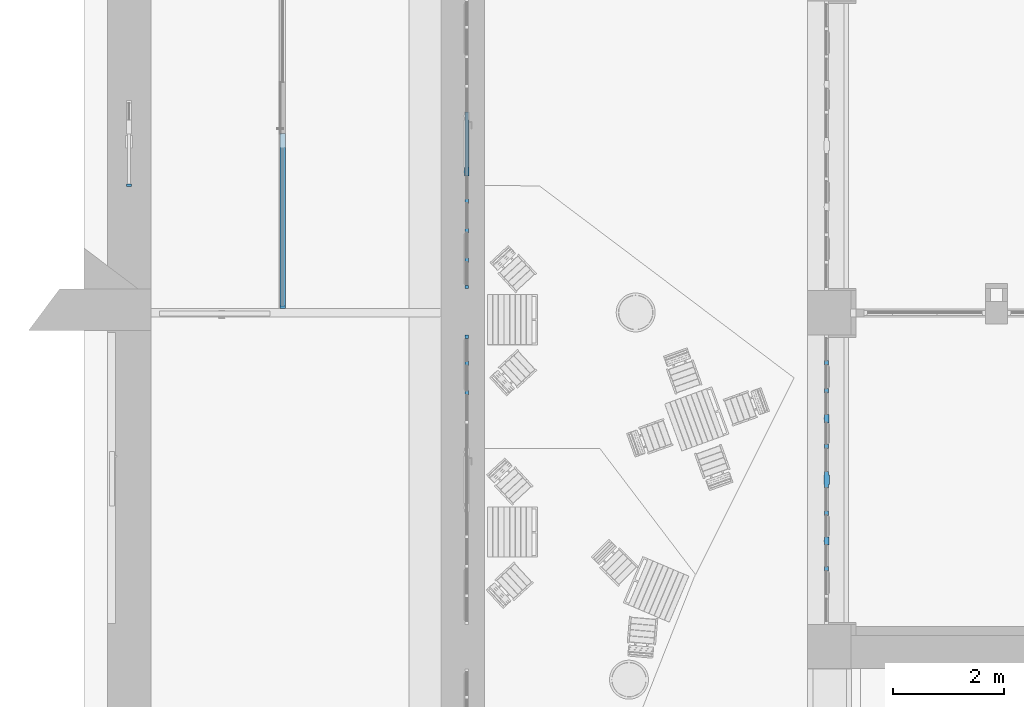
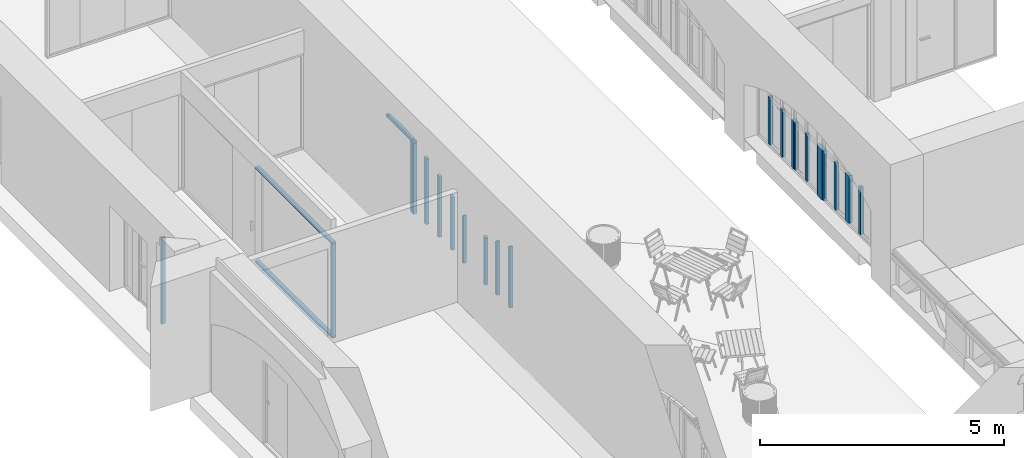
# One storey, part 4 of 88: 22 members, 5 elements without a shape of their own.
"""IFC2X3 building model written with IfcOpenShell, lengths in millimetres."""

from ifc_helpers import new_model, entity, si_unit, converted_unit, derived_unit, direction, frame, frame_2d, origin, origin_2d_with_axis, place, context, subcontext, project, spatial, polyline, circle_curve, parameter, trimmed, segment, composite_curve, rectangle, outline, extrude, source, transform, mapped, material, type_object, type_shapes, element, aggregate, save


model = new_model("IFC2X3")

# Units and contexts
model_context = context("Model", 3, precision=0.01, world=origin(), true_north=direction((6.123031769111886e-17, 1.0)))
body_context = subcontext(model_context, "Body", "Model", "MODEL_VIEW")
ifc_project = project(units=[si_unit("LENGTHUNIT", "METRE", prefix="MILLI"), si_unit("AREAUNIT", "SQUARE_METRE"), si_unit("VOLUMEUNIT", "CUBIC_METRE"), converted_unit("PLANEANGLEUNIT", "DEGREE", entity("IfcPlaneAngleMeasure", 0.017453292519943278), si_unit("PLANEANGLEUNIT", "RADIAN"), dimensions=[0, 0, 0, 0, 0, 0, 0]), si_unit("MASSUNIT", "GRAM", prefix="KILO"), derived_unit("MASSDENSITYUNIT", [(si_unit("MASSUNIT", "GRAM", prefix="KILO"), 1), (si_unit("LENGTHUNIT", "METRE"), -3)]), derived_unit("IONCONCENTRATIONUNIT", [(si_unit("MASSUNIT", "GRAM", prefix="KILO"), 1), (si_unit("LENGTHUNIT", "METRE"), -3)]), derived_unit("MOMENTOFINERTIAUNIT", [(si_unit("LENGTHUNIT", "METRE"), 4)]), si_unit("TIMEUNIT", "SECOND"), si_unit("FREQUENCYUNIT", "HERTZ"), si_unit("THERMODYNAMICTEMPERATUREUNIT", "DEGREE_CELSIUS"), derived_unit("THERMALTRANSMITTANCEUNIT", [(si_unit("MASSUNIT", "GRAM", prefix="KILO"), 1), (si_unit("THERMODYNAMICTEMPERATUREUNIT", "KELVIN"), -1), (si_unit("TIMEUNIT", "SECOND"), -3)]), derived_unit("THERMALCONDUCTANCEUNIT", [(si_unit("MASSUNIT", "GRAM", prefix="KILO"), 1), (si_unit("THERMODYNAMICTEMPERATUREUNIT", "KELVIN"), -1), (si_unit("TIMEUNIT", "SECOND"), -3), (si_unit("LENGTHUNIT", "METRE"), 1)]), derived_unit("VOLUMETRICFLOWRATEUNIT", [(si_unit("LENGTHUNIT", "METRE", prefix="DECI"), 3), (si_unit("TIMEUNIT", "SECOND"), -1)]), derived_unit("MASSFLOWRATEUNIT", [(si_unit("MASSUNIT", "GRAM", prefix="KILO"), 1), (si_unit("TIMEUNIT", "SECOND"), -1)]), derived_unit("ROTATIONALFREQUENCYUNIT", [(si_unit("TIMEUNIT", "SECOND"), -1)]), si_unit("ELECTRICCURRENTUNIT", "AMPERE"), si_unit("ELECTRICVOLTAGEUNIT", "VOLT"), si_unit("POWERUNIT", "WATT"), si_unit("FORCEUNIT", "NEWTON", prefix="KILO"), si_unit("ILLUMINANCEUNIT", "LUX"), si_unit("LUMINOUSFLUXUNIT", "LUMEN"), si_unit("LUMINOUSINTENSITYUNIT", "CANDELA"), si_unit("ENERGYUNIT", "JOULE"), derived_unit("USERDEFINED", [(si_unit("MASSUNIT", "GRAM", prefix="KILO"), -1), (si_unit("LENGTHUNIT", "METRE"), -2), (si_unit("TIMEUNIT", "SECOND"), 3), (si_unit("LUMINOUSFLUXUNIT", "LUMEN"), 1)]), derived_unit("USERDEFINED", [(si_unit("MASSUNIT", "GRAM", prefix="KILO"), 1), (si_unit("TIMEUNIT", "SECOND"), -3), (si_unit("LENGTHUNIT", "METRE"), 3), (si_unit("ELECTRICCURRENTUNIT", "AMPERE"), -2)]), derived_unit("SOUNDPOWERUNIT", [(si_unit("MASSUNIT", "GRAM", prefix="KILO"), 1), (si_unit("TIMEUNIT", "SECOND"), -3), (si_unit("LENGTHUNIT", "METRE"), 2)]), derived_unit("SOUNDPRESSUREUNIT", [(si_unit("MASSUNIT", "GRAM", prefix="KILO"), 1), (si_unit("LENGTHUNIT", "METRE"), -1), (si_unit("TIMEUNIT", "SECOND"), -2)]), derived_unit("LINEARVELOCITYUNIT", [(si_unit("LENGTHUNIT", "METRE"), 1), (si_unit("TIMEUNIT", "SECOND"), -1)]), si_unit("PRESSUREUNIT", "PASCAL"), derived_unit("USERDEFINED", [(si_unit("MASSUNIT", "GRAM", prefix="KILO"), 1), (si_unit("LENGTHUNIT", "METRE"), -2), (si_unit("TIMEUNIT", "SECOND"), -2)]), derived_unit("LINEARFORCEUNIT", [(si_unit("MASSUNIT", "GRAM", prefix="KILO"), 1), (si_unit("TIMEUNIT", "SECOND"), -2)]), derived_unit("PLANARFORCEUNIT", [(si_unit("MASSUNIT", "GRAM", prefix="KILO"), 1), (si_unit("LENGTHUNIT", "METRE"), -1), (si_unit("TIMEUNIT", "SECOND"), -2)]), derived_unit("SPECIFICHEATCAPACITYUNIT", [(si_unit("THERMODYNAMICTEMPERATUREUNIT", "KELVIN"), -1), (si_unit("LENGTHUNIT", "METRE"), 2), (si_unit("TIMEUNIT", "SECOND"), -2)]), derived_unit("HEATFLUXDENSITYUNIT", [(si_unit("MASSUNIT", "GRAM", prefix="KILO"), 1), (si_unit("TIMEUNIT", "SECOND"), -3)]), derived_unit("HEATINGVALUEUNIT", [(si_unit("LENGTHUNIT", "METRE"), 2), (si_unit("TIMEUNIT", "SECOND"), -2)]), derived_unit("VAPORPERMEABILITYUNIT", [(si_unit("LENGTHUNIT", "METRE"), -1), (si_unit("TIMEUNIT", "SECOND"), 1)]), derived_unit("DYNAMICVISCOSITYUNIT", [(si_unit("MASSUNIT", "GRAM", prefix="KILO"), 1), (si_unit("TIMEUNIT", "SECOND"), -1), (si_unit("LENGTHUNIT", "METRE"), -1)]), derived_unit("THERMALEXPANSIONCOEFFICIENTUNIT", [(si_unit("THERMODYNAMICTEMPERATUREUNIT", "KELVIN"), -1)]), derived_unit("MODULUSOFELASTICITYUNIT", [(si_unit("MASSUNIT", "GRAM", prefix="KILO"), 1), (si_unit("LENGTHUNIT", "METRE"), -1), (si_unit("TIMEUNIT", "SECOND"), -2)]), derived_unit("ISOTHERMALMOISTURECAPACITYUNIT", [(si_unit("MASSUNIT", "GRAM", prefix="KILO"), -1), (si_unit("LENGTHUNIT", "METRE"), 3)]), derived_unit("MOISTUREDIFFUSIVITYUNIT", [(si_unit("TIMEUNIT", "SECOND"), -1), (si_unit("LENGTHUNIT", "METRE"), 2)]), derived_unit("MASSPERLENGTHUNIT", [(si_unit("MASSUNIT", "GRAM", prefix="KILO"), 1), (si_unit("LENGTHUNIT", "METRE"), -1)]), derived_unit("THERMALRESISTANCEUNIT", [(si_unit("MASSUNIT", "GRAM", prefix="KILO"), -1), (si_unit("TIMEUNIT", "SECOND"), 3), (si_unit("THERMODYNAMICTEMPERATUREUNIT", "KELVIN"), 1)]), derived_unit("ACCELERATIONUNIT", [(si_unit("LENGTHUNIT", "METRE"), 1), (si_unit("TIMEUNIT", "SECOND"), -2)]), derived_unit("ANGULARVELOCITYUNIT", [(si_unit("TIMEUNIT", "SECOND"), -1), (si_unit("PLANEANGLEUNIT", "RADIAN"), 1)]), derived_unit("LINEARSTIFFNESSUNIT", [(si_unit("MASSUNIT", "GRAM", prefix="KILO"), 1), (si_unit("TIMEUNIT", "SECOND"), -2)]), derived_unit("WARPINGCONSTANTUNIT", [(si_unit("LENGTHUNIT", "METRE"), 6)]), derived_unit("LINEARMOMENTUNIT", [(si_unit("MASSUNIT", "GRAM", prefix="KILO"), 1), (si_unit("LENGTHUNIT", "METRE"), 1), (si_unit("TIMEUNIT", "SECOND"), -2)]), derived_unit("TORQUEUNIT", [(si_unit("MASSUNIT", "GRAM", prefix="KILO"), 1), (si_unit("LENGTHUNIT", "METRE"), 2), (si_unit("TIMEUNIT", "SECOND"), -2)])], contexts=[model_context])

# Site, building, storey
site_placement = place(None, origin())
site = spatial("IfcSite", under=ifc_project, at=site_placement, Name="Default", CompositionType="ELEMENT")
building_placement = place(site_placement, origin())
building = spatial("IfcBuilding", under=site, at=building_placement, Name="Eesti Rahvusraamatukogu hoone renoveerimise projekteerimistööd", CompositionType="ELEMENT")
storey_placement = place(building_placement, origin())
storey = spatial("IfcBuildingStorey", under=building, at=storey_placement, Name="1. korrus", CompositionType="ELEMENT", Elevation=0.0)

# Curtain wall, members
curtain_wall_type_1 = type_object("IfcCurtainWallType", Name="Curtain Wall:VLS Klaasvahesein profiilita 38db", PredefinedType="NOTDEFINED")
curtain_wall_1_placement = place(storey_placement, origin())
curtain_wall_1 = element("IfcCurtainWall", 1, at=curtain_wall_1_placement, inside=storey, type_object=curtain_wall_type_1, Name="Curtain Wall:VLS Klaasvahesein profiilita 38db", ObjectType="Curtain Wall:VLS Klaasvahesein profiilita 38db")
ifc_material_1 = material(Name="Aluminum")
member_type_1 = type_object("IfcMemberType", Name="Rectangular Mullion:50mm x 92mm", PredefinedType="MULLION", material=ifc_material_1)
shared_shape_1 = source(origin(), body_context, "Body", "SweptSolid", [
    extrude(rectangle(XDim=50.0, YDim=92.0, at=origin_2d_with_axis()), frame((-25.0, 0.0, -3143.0833331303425), z_axis=(0.0, 0.0, 1.0), x_axis=(-1.0, 0.0, 0.0)), (0.0, 0.0, 1.0), 3143.0833331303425),
])
type_shapes(member_type_1, [shared_shape_1])
member_1_placement = place(curtain_wall_1_placement, frame((-46211.0, 12465.0, 2400.0), z_axis=(0.0, -1.0, 0.0), x_axis=(0.0, 0.0, 1.0)))
member_1 = element("IfcMember", 2, at=member_1_placement, type_object=member_type_1, material=ifc_material_1, Name="Rectangular Mullion:50mm x 92mm", ObjectType="Rectangular Mullion:50mm x 92mm", context=body_context, shape_type="MappedRepresentation", body=[
    mapped(shared_shape_1, transform((0.0, 0.0, 0.0), scale=1.0)),
])
member_type_2 = type_object("IfcMemberType", Name="Rectangular Mullion:50mm x 92mm", PredefinedType="MULLION", material=ifc_material_1)
shared_shape_2 = source(origin(), body_context, "Body", "SweptSolid", [
    extrude(rectangle(XDim=50.0, YDim=92.0, at=origin_2d_with_axis()), frame((-25.0, 0.0, -2300.0), z_axis=(0.0, 0.0, 1.0), x_axis=(-1.0, 0.0, 0.0)), (0.0, 0.0, 1.0), 2300.0),
])
type_shapes(member_type_2, [shared_shape_2])
member_2_placement = place(curtain_wall_1_placement, frame((-46211.0, 12465.0, 50.0), z_axis=(0.0, 0.0, -1.0), x_axis=(0.0, -1.0, 0.0)))
member_2 = element("IfcMember", 3, at=member_2_placement, type_object=member_type_2, material=ifc_material_1, Name="Rectangular Mullion:50mm x 92mm", ObjectType="Rectangular Mullion:50mm x 92mm", context=body_context, shape_type="MappedRepresentation", body=[
    mapped(shared_shape_2, transform((0.0, 0.0, 0.0), scale=1.0)),
])
member_type_3 = type_object("IfcMemberType", Name="Rectangular Mullion:50mm x 92mm", PredefinedType="MULLION", material=ifc_material_1)
shared_shape_3 = source(origin(), body_context, "Body", "SweptSolid", [
    extrude(rectangle(XDim=50.0, YDim=92.0, at=origin_2d_with_axis()), frame((-25.0, 0.0, -3143.0833331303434), z_axis=(0.0, 0.0, 1.0), x_axis=(-1.0, 0.0, 0.0)), (0.0, 0.0, 1.0), 3143.0833331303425),
])
type_shapes(member_type_3, [shared_shape_3])
member_3_placement = place(curtain_wall_1_placement, frame((-46211.0, 15608.08333312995, 0.0), z_axis=(0.0, 1.0, 0.0), x_axis=(0.0, 0.0, -1.0)))
member_3 = element("IfcMember", 4, at=member_3_placement, type_object=member_type_3, material=ifc_material_1, Name="Rectangular Mullion:50mm x 92mm", ObjectType="Rectangular Mullion:50mm x 92mm", context=body_context, shape_type="MappedRepresentation", body=[
    mapped(shared_shape_3, transform((0.0, 0.0, 0.0), scale=1.0)),
])
aggregate(curtain_wall_1, [member_1, member_2, member_3])

curtain_wall_type_2 = type_object("IfcCurtainWallType", Name="Curtain Wall:Ak-02", PredefinedType="NOTDEFINED")
curtain_wall_2_placement = place(storey_placement, origin())
curtain_wall_2 = element("IfcCurtainWall", 5, at=curtain_wall_2_placement, inside=storey, type_object=curtain_wall_type_2, Name="Curtain Wall:Ak-02", ObjectType="Curtain Wall:Ak-02")
ifc_material_2 = material(Name="LUMION_dark steel window frames")
member_type_4 = type_object("IfcMemberType", Name="Rectangular Mullion:NEW 80x70mm", PredefinedType="MULLION", material=ifc_material_2)
shared_shape_4 = source(origin(), body_context, "Body", "SweptSolid", [
    extrude(rectangle(XDim=80.0, YDim=70.0, at=frame_2d((0.0, 3.552713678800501e-15), x_axis=(1.0, 0.0))), frame((0.0, 0.0, -1190.0), z_axis=(0.0, 0.0, 1.0), x_axis=(-1.0, 0.0, 0.0)), (0.0, 0.0, 1.0), 1189.9999999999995),
])
type_shapes(member_type_4, [shared_shape_4])
member_4_placement = place(curtain_wall_2_placement, frame((-36440.0, 11490.0, 2030.0), z_axis=(0.0, 0.0, -1.0), x_axis=(0.0, -1.0, 0.0)))
member_4 = element("IfcMember", 6, at=member_4_placement, type_object=member_type_4, material=ifc_material_2, Name="Rectangular Mullion:NEW 80x70mm", ObjectType="Rectangular Mullion:NEW 80x70mm", context=body_context, shape_type="MappedRepresentation", body=[
    mapped(shared_shape_4, transform((0.0, 0.0, 0.0), scale=1.0)),
])
member_5_placement = place(curtain_wall_2_placement, frame((-36440.0, 10990.0, 2030.0), z_axis=(0.0, 0.0, -1.0), x_axis=(0.0, -1.0, 0.0)))
member_5 = element("IfcMember", 7, at=member_5_placement, type_object=member_type_4, material=ifc_material_2, Name="Rectangular Mullion:NEW 80x70mm", ObjectType="Rectangular Mullion:NEW 80x70mm", context=body_context, shape_type="MappedRepresentation", body=[
    mapped(shared_shape_4, transform((0.0, 0.0, 0.0), scale=1.0)),
])
member_6_placement = place(curtain_wall_2_placement, frame((-36440.0, 9990.0, 2030.0), z_axis=(0.0, 0.0, -1.0), x_axis=(0.0, -1.0, 0.0)))
member_6 = element("IfcMember", 8, at=member_6_placement, type_object=member_type_4, material=ifc_material_2, Name="Rectangular Mullion:NEW 80x70mm", ObjectType="Rectangular Mullion:NEW 80x70mm", context=body_context, shape_type="MappedRepresentation", body=[
    mapped(shared_shape_4, transform((0.0, 0.0, 0.0), scale=1.0)),
])
member_7_placement = place(curtain_wall_2_placement, frame((-36440.0, 8790.0, 2030.0), z_axis=(0.0, 0.0, -1.0), x_axis=(0.0, -1.0, 0.0)))
member_7 = element("IfcMember", 9, at=member_7_placement, type_object=member_type_4, material=ifc_material_2, Name="Rectangular Mullion:NEW 80x70mm", ObjectType="Rectangular Mullion:NEW 80x70mm", context=body_context, shape_type="MappedRepresentation", body=[
    mapped(shared_shape_4, transform((0.0, 0.0, 0.0), scale=1.0)),
])
member_8_placement = place(curtain_wall_2_placement, frame((-36440.0, 7790.0, 2030.0), z_axis=(0.0, 0.0, -1.0), x_axis=(0.0, -1.0, 0.0)))
member_8 = element("IfcMember", 10, at=member_8_placement, type_object=member_type_4, material=ifc_material_2, Name="Rectangular Mullion:NEW 80x70mm", ObjectType="Rectangular Mullion:NEW 80x70mm", context=body_context, shape_type="MappedRepresentation", body=[
    mapped(shared_shape_4, transform((0.0, 0.0, 0.0), scale=1.0)),
])
member_type_5 = type_object("IfcMemberType", Name="Rectangular Mullion:NEW 150x90mm", PredefinedType="MULLION", material=ifc_material_2)
shared_shape_5 = source(origin(), body_context, "Body", "SweptSolid", [
    extrude(outline(polyline([(20.0, -40.0), (75.0, -40.0), (75.0, 40.0), (20.0, 40.0), (20.0, 45.0), (-20.0, 45.0), (-20.0, 40.0), (-75.0, 40.0), (-75.0, -40.0), (-20.0, -40.0), (-20.0, -45.0), (20.0, -45.0), (20.0, -40.0)])), frame((0.0, 0.0, -1190.0), z_axis=(0.0, 0.0, 1.0), x_axis=(-1.0, 0.0, 0.0)), (0.0, 0.0, 1.0), 1189.9999999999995),
])
type_shapes(member_type_5, [shared_shape_5])
member_9_placement = place(curtain_wall_2_placement, frame((-36440.0, 10490.0, 2030.0), z_axis=(0.0, 0.0, -1.0), x_axis=(0.0, -1.0, 0.0)))
member_9 = element("IfcMember", 11, at=member_9_placement, type_object=member_type_5, material=ifc_material_2, Name="Rectangular Mullion:NEW 150x90mm", ObjectType="Rectangular Mullion:NEW 150x90mm", context=body_context, shape_type="MappedRepresentation", body=[
    mapped(shared_shape_5, transform((0.0, 0.0, 0.0), scale=1.0)),
])
member_10_placement = place(curtain_wall_2_placement, frame((-36440.0, 8290.0, 2030.0), z_axis=(0.0, 0.0, -1.0), x_axis=(0.0, -1.0, 0.0)))
member_10 = element("IfcMember", 12, at=member_10_placement, type_object=member_type_5, material=ifc_material_2, Name="Rectangular Mullion:NEW 150x90mm", ObjectType="Rectangular Mullion:NEW 150x90mm", context=body_context, shape_type="MappedRepresentation", body=[
    mapped(shared_shape_5, transform((0.0, 0.0, 0.0), scale=1.0)),
])
member_type_6 = type_object("IfcMemberType", Name="Rectangular Mullion:NEW 300x100mm", PredefinedType="MULLION", material=ifc_material_2)
shared_shape_6 = source(origin(), body_context, "Body", "SweptSolid", [
    extrude(outline(polyline([(85.0, -35.0), (150.0, -35.0), (150.0, 35.0), (85.0, 35.0), (85.0, 50.0), (-85.0, 50.0), (-85.0, 35.0), (-150.0, 35.0), (-150.0, -35.0), (-85.0, -35.0), (-85.0, -50.0), (85.0, -50.0), (85.0, -35.0)])), frame((0.0, 0.0, -1250.0), z_axis=(0.0, 0.0, 1.0), x_axis=(-1.0, 0.0, 0.0)), (0.0, 0.0, 1.0), 1249.9999999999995),
])
type_shapes(member_type_6, [shared_shape_6])
member_11_placement = place(curtain_wall_2_placement, frame((-36440.0, 9390.0, 1970.0), z_axis=(0.0, 0.0, -1.0), x_axis=(0.0, -1.0, 0.0)))
member_11 = element("IfcMember", 13, at=member_11_placement, type_object=member_type_6, material=ifc_material_2, Name="Rectangular Mullion:NEW 300x100mm", ObjectType="Rectangular Mullion:NEW 300x100mm", context=body_context, shape_type="MappedRepresentation", body=[
    mapped(shared_shape_6, transform((0.0, 0.0, 0.0), scale=1.0)),
])
aggregate(curtain_wall_2, [member_4, member_5, member_9, member_6, member_11, member_7, member_10, member_8])

curtain_wall_type_3 = type_object("IfcCurtainWallType", Name="Curtain Wall:Ak-05", PredefinedType="NOTDEFINED")
curtain_wall_3_placement = place(storey_placement, origin())
curtain_wall_3 = element("IfcCurtainWall", 14, at=curtain_wall_3_placement, inside=storey, type_object=curtain_wall_type_3, Name="Curtain Wall:Ak-05", ObjectType="Curtain Wall:Ak-05")
member_type_7 = type_object("IfcMemberType", Name="Rectangular Mullion:NEW 60x70mm", PredefinedType="MULLION", material=ifc_material_2)
shared_shape_7 = source(origin(), body_context, "Body", "SweptSolid", [
    extrude(outline(composite_curve([segment(polyline([(-75.01710683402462, -495.2424237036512), (-15.017106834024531, -495.2424237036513)]), True, "CONTINUOUS"), segment(trimmed(circle_curve(frame_2d((5448.26345993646, -495.24242370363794), x_axis=(-0.9836101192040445, 0.1803084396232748)), 5463.280566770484), [parameter(3.5622212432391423e-13)], [parameter(10.387726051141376)], True, "PARAMETER"), False, "CONTINUOUS"), segment(polyline([(74.52541041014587, 489.83317051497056), (15.508803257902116, 500.65167689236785)]), True, "CONTINUOUS"), segment(trimmed(circle_curve(frame_2d((5448.26345993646, -495.24242370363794), x_axis=(-0.9836101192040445, 0.1803084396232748)), 5523.280566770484), [parameter(3.5622212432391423e-13)], [parameter(10.387726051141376)], True, "PARAMETER"), True, "CONTINUOUS")], self_intersect=False)), frame((-75.01710683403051, -35.0, -495.2424237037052), z_axis=(0.0, 1.0, 0.0), x_axis=(-0.9836101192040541, 0.0, 0.18030843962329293)), (0.0, 0.0, 1.0), 69.99999999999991),
])
type_shapes(member_type_7, [shared_shape_7])
member_12_placement = place(curtain_wall_3_placement, frame((-42905.0, 14925.0, 2327.3219656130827), z_axis=(0.0, -0.9958941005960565, -0.09052591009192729), x_axis=(0.0, -0.09052591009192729, 0.9958941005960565)))
member_12 = element("IfcMember", 15, at=member_12_placement, type_object=member_type_7, material=ifc_material_2, Name="Rectangular Mullion:NEW 60x70mm", ObjectType="Rectangular Mullion:NEW 60x70mm", context=body_context, shape_type="MappedRepresentation", body=[
    mapped(shared_shape_7, transform((0.0, 0.0, 0.0), scale=1.0)),
])
member_type_8 = type_object("IfcMemberType", Name="Rectangular Mullion:NEW 150x90mm", PredefinedType="MULLION", material=ifc_material_2)
shared_shape_8 = source(origin(), body_context, "Body", "SweptSolid", [
    extrude(outline(polyline([(40.0, -20.0), (45.0, -20.0), (45.0, 20.0), (40.0, 20.0), (40.0, 75.0), (-40.0, 75.0), (-40.0, 20.0), (-45.0, 20.0), (-45.0, -20.0), (-40.0, -20.0), (-40.0, -75.0), (40.0, -75.0), (40.0, -20.0)])), frame((0.0, 0.0, -1760.0), z_axis=(0.0, 0.0, 1.0), x_axis=(0.0, -1.0, 0.0)), (0.0, 0.0, 1.0), 1759.9999999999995),
])
type_shapes(member_type_8, [shared_shape_8])
member_13_placement = place(curtain_wall_3_placement, frame((-42905.0, 14925.0, 500.0), z_axis=(0.0, 0.0, -1.0), x_axis=(0.0, -1.0, 0.0)))
member_13 = element("IfcMember", 16, at=member_13_placement, type_object=member_type_8, material=ifc_material_2, Name="Rectangular Mullion:NEW 150x90mm", ObjectType="Rectangular Mullion:NEW 150x90mm", context=body_context, shape_type="MappedRepresentation", body=[
    mapped(shared_shape_8, transform((0.0, 0.0, 0.0), scale=1.0)),
])
member_type_9 = type_object("IfcMemberType", Name="Rectangular Mullion:NEW 60x70mm", PredefinedType="MULLION", material=ifc_material_2)
shared_shape_9 = source(origin(), body_context, "Body", "SweptSolid", [
    extrude(outline(polyline([(-590.8870214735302, -30.0), (608.8836344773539, -30.0), (572.8904084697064, 30.0), (-590.8870214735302, 30.0), (-590.8870214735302, -30.0)])), frame((-30.0, -35.0, -590.8870214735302), z_axis=(0.0, 1.0, 0.0), x_axis=(0.0, 0.0, -1.0)), (0.0, 0.0, 1.0), 70.00000000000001),
])
type_shapes(member_type_9, [shared_shape_9])
member_14_placement = place(curtain_wall_3_placement, frame((-42905.0, 12825.0, 500.0), z_axis=(0.0, 0.0, -1.0), x_axis=(0.0, -1.0, 0.0)))
member_14 = element("IfcMember", 17, at=member_14_placement, type_object=member_type_9, material=ifc_material_2, Name="Rectangular Mullion:NEW 60x70mm", ObjectType="Rectangular Mullion:NEW 60x70mm", context=body_context, shape_type="MappedRepresentation", body=[
    mapped(shared_shape_9, transform((0.0, 0.0, 0.0), scale=1.0)),
])

# Curtain wall, member
curtain_wall_type_4 = type_object("IfcCurtainWallType", Name="Curtain Wall:Ak-05*", PredefinedType="NOTDEFINED")
curtain_wall_4_placement = place(storey_placement, origin())
curtain_wall_4 = element("IfcCurtainWall", 18, at=curtain_wall_4_placement, inside=storey, type_object=curtain_wall_type_4, Name="Curtain Wall:Ak-05*", ObjectType="Curtain Wall:Ak-05*")
member_type_10 = type_object("IfcMemberType", Name="Rectangular Mullion:NEW 60x70mm", PredefinedType="MULLION", material=ifc_material_2)
shared_shape_10 = source(origin(), body_context, "Body", "SweptSolid", [
    extrude(outline(polyline([(-608.8836344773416, -30.0), (590.8870214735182, -30.0), (590.8870214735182, 30.0), (-572.8904084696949, 30.0), (-608.8836344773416, -30.0)])), frame((-30.0, -35.0, -608.8836344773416), z_axis=(0.0, 1.0, 0.0), x_axis=(0.0, 0.0, -1.0)), (0.0, 0.0, 1.0), 70.00000000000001),
])
type_shapes(member_type_10, [shared_shape_10])
member_15_placement = place(curtain_wall_4_placement, frame((-42905.0, 11990.0, 1699.7706559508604), z_axis=(0.0, 0.0, 1.0), x_axis=(0.0, 1.0, 0.0)))
member_15 = element("IfcMember", 19, at=member_15_placement, type_object=member_type_10, material=ifc_material_2, Name="Rectangular Mullion:NEW 60x70mm", ObjectType="Rectangular Mullion:NEW 60x70mm", context=body_context, shape_type="MappedRepresentation", body=[
    mapped(shared_shape_10, transform((0.0, 0.0, 0.0), scale=1.0)),
])

# Member
member_type_11 = type_object("IfcMemberType", Name="Rectangular Mullion:NEW 60x70mm", PredefinedType="MULLION", material=ifc_material_2)
shared_shape_11 = source(origin(), body_context, "Body", "SweptSolid", [
    extrude(rectangle(XDim=60.0, YDim=70.0, at=frame_2d((0.0, -3.552713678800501e-15), x_axis=(1.0, 0.0))), frame((0.0, 0.0, -1150.0), z_axis=(0.0, 0.0, 1.0), x_axis=(-1.0, 0.0, 0.0)), (0.0, 0.0, 1.0), 1149.9999999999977),
])
type_shapes(member_type_11, [shared_shape_11])
member_16_placement = place(curtain_wall_3_placement, frame((-42905.0, 14850.0, 2290.0), z_axis=(0.0, -1.0, 0.0), x_axis=(0.0, 0.0, 1.0)))
member_16 = element("IfcMember", 20, at=member_16_placement, type_object=member_type_11, material=ifc_material_2, Name="Rectangular Mullion:NEW 60x70mm", ObjectType="Rectangular Mullion:NEW 60x70mm", context=body_context, shape_type="MappedRepresentation", body=[
    mapped(shared_shape_11, transform((0.0, 0.0, 0.0), scale=1.0)),
])

member_type_12 = type_object("IfcMemberType", Name="Rectangular Mullion:NEW 80x70mm", PredefinedType="MULLION", material=ifc_material_2)
shared_shape_12 = source(origin(), body_context, "Body", "SweptSolid", [
    extrude(outline(composite_curve([segment(polyline([(-802.4490834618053, -44.54077965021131), (515.2279674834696, -44.54077965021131)]), True, "CONTINUOUS"), segment(trimmed(circle_curve(frame_2d((-4515.729650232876, 2085.4592203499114), x_axis=(0.8822747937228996, -0.4707347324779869)), 5463.280566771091), [parameter(5.135238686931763)], [parameter(5.847495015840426)], True, "PARAMETER"), True, "CONTINUOUS"), segment(trimmed(circle_curve(frame_2d((-4515.729650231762, 2085.4592203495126), x_axis=(0.9256428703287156, -0.3783983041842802)), 5463.280566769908), [parameter(0.0)], [parameter(0.1958264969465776)], True, "PARAMETER"), True, "CONTINUOUS"), segment(polyline([(548.3531444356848, 35.45922034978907), (-802.4490834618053, 35.45922034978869)]), True, "CONTINUOUS"), segment(polyline([(-802.4490834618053, 35.45922034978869), (-802.4490834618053, -44.54077965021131)]), True, "CONTINUOUS")], self_intersect=False)), frame((-4.540779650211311, -35.0, -802.4490834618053), z_axis=(0.0, 1.0, 0.0), x_axis=(0.0, 0.0, -1.0)), (0.0, 0.0, 1.0), 69.99999999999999),
])
type_shapes(member_type_12, [shared_shape_12])
member_17_placement = place(curtain_wall_3_placement, frame((-42905.0, 13335.0, 540.0), z_axis=(0.0, 0.0, -1.0), x_axis=(0.0, -1.0, 0.0)))
member_17 = element("IfcMember", 21, at=member_17_placement, type_object=member_type_12, material=ifc_material_2, Name="Rectangular Mullion:NEW 80x70mm", ObjectType="Rectangular Mullion:NEW 80x70mm", context=body_context, shape_type="MappedRepresentation", body=[
    mapped(shared_shape_12, transform((0.0, 0.0, 0.0), scale=1.0)),
])

member_type_13 = type_object("IfcMemberType", Name="Rectangular Mullion:NEW 80x70mm", PredefinedType="MULLION", material=ifc_material_2)
shared_shape_13 = source(origin(), body_context, "Body", "SweptSolid", [
    extrude(outline(composite_curve([segment(polyline([(-914.4623251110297, -43.389290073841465), (595.9947117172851, -43.389290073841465)]), True, "CONTINUOUS"), segment(trimmed(circle_curve(frame_2d((-4627.7428918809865, 1556.6107099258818), x_axis=(0.9256428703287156, -0.37839830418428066)), 5463.280566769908), [parameter(5.204987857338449)], [parameter(5.828569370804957)], True, "PARAMETER"), True, "CONTINUOUS"), segment(trimmed(circle_curve(frame_2d((-4627.74289188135, 1556.6107099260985), x_axis=(0.9592847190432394, -0.28244083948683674)), 5463.280566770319), [parameter(0.0)], [parameter(0.25187197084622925)], True, "PARAMETER"), True, "CONTINUOUS"), segment(polyline([(619.8312668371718, 36.61070992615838), (-914.4623251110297, 36.610709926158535)]), True, "CONTINUOUS"), segment(polyline([(-914.4623251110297, 36.610709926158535), (-914.4623251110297, -43.389290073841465)]), True, "CONTINUOUS")], self_intersect=False)), frame((-3.389290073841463, -35.0, -914.4623251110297), z_axis=(0.0, 1.0, 0.0), x_axis=(0.0, 0.0, -1.0)), (0.0, 0.0, 1.0), 69.99999999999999),
])
type_shapes(member_type_13, [shared_shape_13])
member_18_placement = place(curtain_wall_3_placement, frame((-42905.0, 13865.0, 540.0), z_axis=(0.0, 0.0, -1.0), x_axis=(0.0, -1.0, 0.0)))
member_18 = element("IfcMember", 22, at=member_18_placement, type_object=member_type_13, material=ifc_material_2, Name="Rectangular Mullion:NEW 80x70mm", ObjectType="Rectangular Mullion:NEW 80x70mm", context=body_context, shape_type="MappedRepresentation", body=[
    mapped(shared_shape_13, transform((0.0, 0.0, 0.0), scale=1.0)),
])

member_type_14 = type_object("IfcMemberType", Name="Rectangular Mullion:NEW 80x70mm", PredefinedType="MULLION", material=ifc_material_2)
shared_shape_14 = source(origin(), body_context, "Body", "SweptSolid", [
    extrude(outline(composite_curve([segment(polyline([(-991.582057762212, -42.23780049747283), (652.61201854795, -42.23780049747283)]), True, "CONTINUOUS"), segment(trimmed(circle_curve(frame_2d((-4704.862624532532, 1027.7621995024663), x_axis=(0.9592847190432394, -0.28244083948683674)), 5463.280566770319), [parameter(5.111376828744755)], [parameter(5.658307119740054)], True, "PARAMETER"), True, "CONTINUOUS"), segment(trimmed(circle_curve(frame_2d((-4704.862624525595, 1027.7621995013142), x_axis=(0.9824581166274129, -0.18648337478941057)), 5463.2805667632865), [parameter(0.0)], [parameter(0.3073932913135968)], True, "PARAMETER"), True, "CONTINUOUS"), segment(polyline([(667.9703852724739, 37.76219950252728), (-991.582057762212, 37.76219950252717)]), True, "CONTINUOUS"), segment(polyline([(-991.582057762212, 37.76219950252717), (-991.582057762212, -42.23780049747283)]), True, "CONTINUOUS")], self_intersect=False)), frame((-2.237800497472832, -35.0, -991.582057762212), z_axis=(0.0, 1.0, 0.0), x_axis=(0.0, 0.0, -1.0)), (0.0, 0.0, 1.0), 70.00000000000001),
])
type_shapes(member_type_14, [shared_shape_14])
member_19_placement = place(curtain_wall_3_placement, frame((-42905.0, 14395.0, 540.0), z_axis=(0.0, 0.0, -1.0), x_axis=(0.0, -1.0, 0.0)))
member_19 = element("IfcMember", 23, at=member_19_placement, type_object=member_type_14, material=ifc_material_2, Name="Rectangular Mullion:NEW 80x70mm", ObjectType="Rectangular Mullion:NEW 80x70mm", context=body_context, shape_type="MappedRepresentation", body=[
    mapped(shared_shape_14, transform((0.0, 0.0, 0.0), scale=1.0)),
])

aggregate(curtain_wall_3, [member_12, member_13, member_14, member_16, member_17, member_18, member_19])

member_type_15 = type_object("IfcMemberType", Name="Rectangular Mullion:NEW 80x70mm", PredefinedType="MULLION", material=ifc_material_2)
shared_shape_15 = source(origin(), body_context, "Body", "SweptSolid", [
    extrude(outline(composite_curve([segment(polyline([(-914.4623251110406, -36.610709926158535), (619.8312668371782, -36.610709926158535)]), True, "CONTINUOUS"), segment(trimmed(circle_curve(frame_2d((-4627.742891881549, -1556.6107099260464), x_axis=(0.9824581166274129, 0.18648337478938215)), 5463.280566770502), [parameter(5.406435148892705)], [parameter(5.658307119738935)], True, "PARAMETER"), True, "CONTINUOUS"), segment(trimmed(circle_curve(frame_2d((-4627.742891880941, -1556.6107099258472), x_axis=(0.9592847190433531, 0.28244083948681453)), 5463.280566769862), [parameter(0.0)], [parameter(0.6235815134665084)], True, "PARAMETER"), True, "CONTINUOUS"), segment(polyline([(595.9947117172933, 43.38929007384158), (-914.4623251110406, 43.389290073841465)]), True, "CONTINUOUS"), segment(polyline([(-914.4623251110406, 43.389290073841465), (-914.4623251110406, -36.610709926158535)]), True, "CONTINUOUS")], self_intersect=False)), frame((3.389290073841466, -35.0, -914.4623251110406), z_axis=(0.0, 1.0, 0.0), x_axis=(0.0, 0.0, -1.0)), (0.0, 0.0, 1.0), 69.99999999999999),
])
type_shapes(member_type_15, [shared_shape_15])
member_20_placement = place(curtain_wall_4_placement, frame((-42905.0, 10950.0, 540.0), z_axis=(0.0, 0.0, -1.0), x_axis=(0.0, -1.0, 0.0)))
member_20 = element("IfcMember", 24, at=member_20_placement, type_object=member_type_15, material=ifc_material_2, Name="Rectangular Mullion:NEW 80x70mm", ObjectType="Rectangular Mullion:NEW 80x70mm", context=body_context, shape_type="MappedRepresentation", body=[
    mapped(shared_shape_15, transform((0.0, 0.0, 0.0), scale=1.0)),
])

member_type_16 = type_object("IfcMemberType", Name="Rectangular Mullion:NEW 80x70mm", PredefinedType="MULLION", material=ifc_material_2)
shared_shape_16 = source(origin(), body_context, "Body", "SweptSolid", [
    extrude(outline(composite_curve([segment(polyline([(-802.4490834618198, -35.45922034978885), (548.3531444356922, -35.45922034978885)]), True, "CONTINUOUS"), segment(trimmed(circle_curve(frame_2d((-4515.72965023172, -2085.459220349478), x_axis=(0.9592847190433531, 0.28244083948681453)), 5463.280566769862), [parameter(5.63274287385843)], [parameter(5.828569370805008)], True, "PARAMETER"), True, "CONTINUOUS"), segment(trimmed(circle_curve(frame_2d((-4515.729650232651, -2085.4592203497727), x_axis=(0.9256428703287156, 0.37839830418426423)), 5463.280566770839), [parameter(0.0)], [parameter(0.7122563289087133)], True, "PARAMETER"), True, "CONTINUOUS"), segment(polyline([(515.2279674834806, 44.54077965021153), (-802.4490834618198, 44.54077965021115)]), True, "CONTINUOUS"), segment(polyline([(-802.4490834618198, 44.54077965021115), (-802.4490834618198, -35.45922034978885)]), True, "CONTINUOUS")], self_intersect=False)), frame((4.540779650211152, -35.0, -802.4490834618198), z_axis=(0.0, 1.0, 0.0), x_axis=(0.0, 0.0, -1.0)), (0.0, 0.0, 1.0), 70.00000000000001),
])
type_shapes(member_type_16, [shared_shape_16])
member_21_placement = place(curtain_wall_4_placement, frame((-42905.0, 11480.0, 540.0), z_axis=(0.0, 0.0, -1.0), x_axis=(0.0, -1.0, 0.0)))
member_21 = element("IfcMember", 25, at=member_21_placement, type_object=member_type_16, material=ifc_material_2, Name="Rectangular Mullion:NEW 80x70mm", ObjectType="Rectangular Mullion:NEW 80x70mm", context=body_context, shape_type="MappedRepresentation", body=[
    mapped(shared_shape_16, transform((0.0, 0.0, 0.0), scale=1.0)),
])

aggregate(curtain_wall_4, [member_15, member_20, member_21])

# Curtain wall, member
curtain_wall_5_placement = place(storey_placement, origin())
curtain_wall_5 = element("IfcCurtainWall", 26, at=curtain_wall_5_placement, inside=storey, type_object=curtain_wall_type_1, Name="Curtain Wall:VLS Klaasvahesein profiilita 38db", ObjectType="Curtain Wall:VLS Klaasvahesein profiilita 38db")
member_type_17 = type_object("IfcMemberType", Name="Rectangular Mullion:50mm x 92mm", PredefinedType="MULLION", material=ifc_material_1)
shared_shape_17 = source(origin(), body_context, "Body", "SweptSolid", [
    extrude(rectangle(XDim=50.0, YDim=92.0, at=origin_2d_with_axis()), frame((-25.0, 0.0, -2150.0), z_axis=(0.0, 0.0, 1.0), x_axis=(-1.0, 0.0, 0.0)), (0.0, 0.0, 1.0), 2150.0),
])
type_shapes(member_type_17, [shared_shape_17])
member_22_placement = place(curtain_wall_5_placement, frame((-48970.0, 14655.0, 0.0), z_axis=(0.0, 0.0, -1.0), x_axis=(0.0, -1.0, 0.0)))
member_22 = element("IfcMember", 27, at=member_22_placement, type_object=member_type_17, material=ifc_material_1, Name="Rectangular Mullion:50mm x 92mm", ObjectType="Rectangular Mullion:50mm x 92mm", context=body_context, shape_type="MappedRepresentation", body=[
    mapped(shared_shape_17, transform((0.0, 0.0, 0.0), scale=1.0)),
])
aggregate(curtain_wall_5, [member_22])

save(model, "model.ifc")
